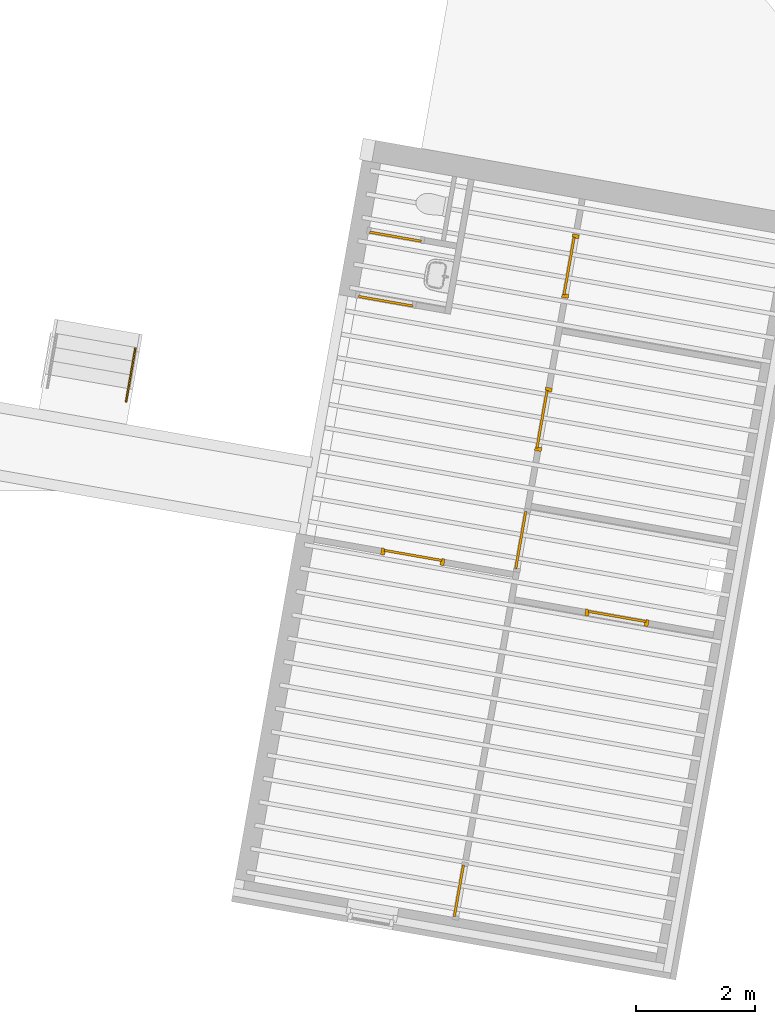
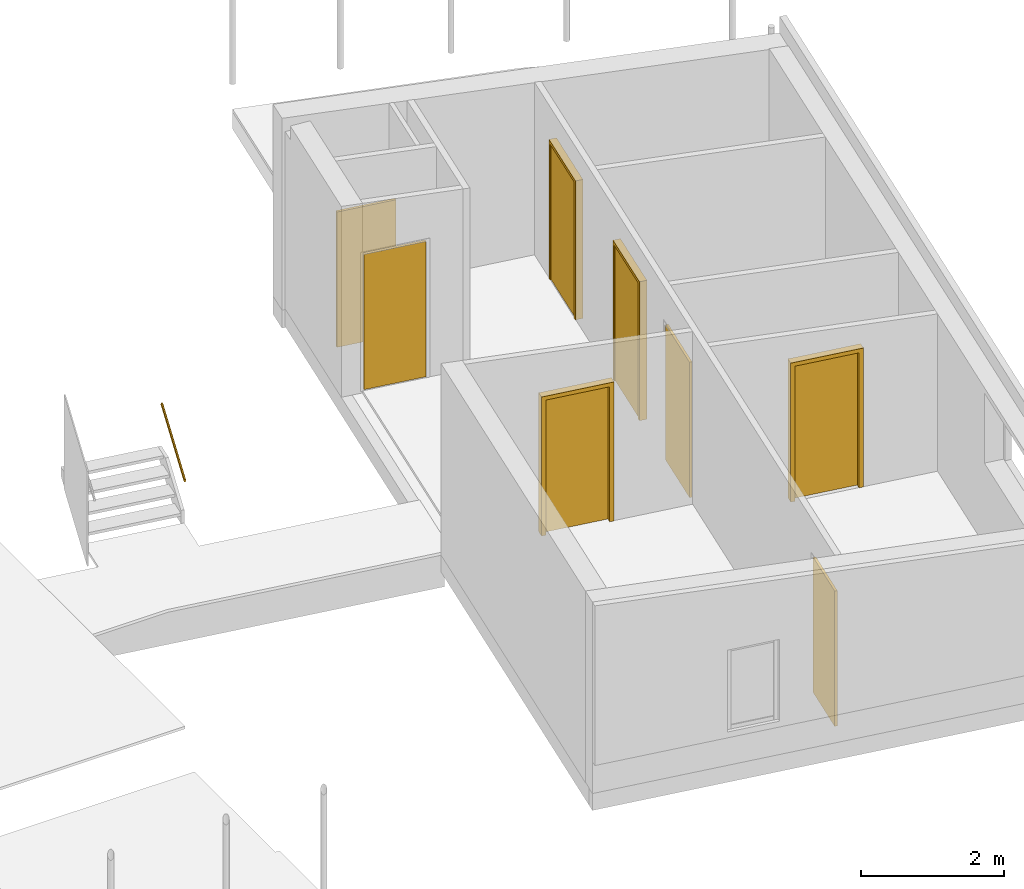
# One storey, part 6 of 7: 12 doors, 1 railing, 1 element without a shape of its own.
"""IFC2X3 building model written with IfcOpenShell, lengths in millimetres."""

from ifc_helpers import new_model, entity, si_unit, converted_unit, derived_unit, direction, frame, origin, origin_2d_with_axis, place, context, subcontext, project, spatial, rectangle, extrude, faceted_brep, source, transform, mapped, type_object, type_shapes, element, aggregate, save


model = new_model("IFC2X3")

# Units and contexts
model_context = context("Model", 3, precision=0.01, world=origin(), true_north=direction((6.12303176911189e-17, 1.0)))
body_context = subcontext(model_context, "Body", "Model", "MODEL_VIEW")
ifc_project = project(units=[si_unit("LENGTHUNIT", "METRE", prefix="MILLI"), si_unit("AREAUNIT", "SQUARE_METRE"), si_unit("VOLUMEUNIT", "CUBIC_METRE"), converted_unit("PLANEANGLEUNIT", "DEGREE", entity("IfcRatioMeasure", 0.0174532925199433), si_unit("PLANEANGLEUNIT", "RADIAN"), dimensions=[0, 0, 0, 0, 0, 0, 0]), si_unit("MASSUNIT", "GRAM", prefix="KILO"), derived_unit("MASSDENSITYUNIT", [(si_unit("MASSUNIT", "GRAM", prefix="KILO"), 1), (si_unit("LENGTHUNIT", "METRE"), -3)]), si_unit("TIMEUNIT", "SECOND"), si_unit("FREQUENCYUNIT", "HERTZ"), si_unit("THERMODYNAMICTEMPERATUREUNIT", "DEGREE_CELSIUS"), derived_unit("THERMALTRANSMITTANCEUNIT", [(si_unit("MASSUNIT", "GRAM", prefix="KILO"), 1), (si_unit("THERMODYNAMICTEMPERATUREUNIT", "KELVIN"), -1), (si_unit("TIMEUNIT", "SECOND"), -3)]), derived_unit("VOLUMETRICFLOWRATEUNIT", [(si_unit("LENGTHUNIT", "METRE"), 3), (si_unit("TIMEUNIT", "SECOND"), -1)]), si_unit("ELECTRICCURRENTUNIT", "AMPERE"), si_unit("ELECTRICVOLTAGEUNIT", "VOLT"), si_unit("POWERUNIT", "WATT"), si_unit("FORCEUNIT", "NEWTON", prefix="KILO"), si_unit("ILLUMINANCEUNIT", "LUX"), si_unit("LUMINOUSFLUXUNIT", "LUMEN"), si_unit("LUMINOUSINTENSITYUNIT", "CANDELA"), derived_unit("USERDEFINED", [(si_unit("MASSUNIT", "GRAM", prefix="KILO"), -1), (si_unit("LENGTHUNIT", "METRE"), -2), (si_unit("TIMEUNIT", "SECOND"), 3), (si_unit("LUMINOUSFLUXUNIT", "LUMEN"), 1)]), derived_unit("LINEARVELOCITYUNIT", [(si_unit("LENGTHUNIT", "METRE"), 1), (si_unit("TIMEUNIT", "SECOND"), -1)]), si_unit("PRESSUREUNIT", "PASCAL"), derived_unit("USERDEFINED", [(si_unit("LENGTHUNIT", "METRE"), -2), (si_unit("MASSUNIT", "GRAM", prefix="KILO"), 1), (si_unit("TIMEUNIT", "SECOND"), -2)])], contexts=[model_context])

# Site, building, storey
site_placement = place(None, origin())
site = spatial("IfcSite", under=ifc_project, at=site_placement, Name="<Kadaster Gemeente>;<Kadaster nummer>;<Kadaster sectie>", CompositionType="ELEMENT")
building_placement = place(site_placement, origin())
building = spatial("IfcBuilding", under=site, at=building_placement, Name="JRCZ Middelburg", CompositionType="ELEMENT")
storey_placement = place(building_placement, frame((0.0, 0.0, 3000.0)))
storey = spatial("IfcBuildingStorey", under=building, at=storey_placement, Name="01 eerste verdieping", CompositionType="ELEMENT", Elevation=3000.0)

# Doors
door_style_1 = type_object("IfcDoorStyle", Name="dichte deur_gen", ConstructionType="USERDEFINED", OperationType="NOTDEFINED", ParameterTakesPrecedence=False, Sizeable=False)
shared_shape_1 = source(origin(), body_context, "Body", "SweptSolid", [
    extrude(rectangle(XDim=929.999999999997, YDim=40.0, at=origin_2d_with_axis()), frame((0.0, 20.0, 0.0), z_axis=(0.0, 0.0, 1.0), x_axis=(-1.0, 0.0, 0.0)), (0.0, 0.0, 1.0), 2315.0),
])
type_shapes(door_style_1, [shared_shape_1])
door_1_placement = place(storey_placement, frame((24280.5330340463, 16792.7089152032, 10.0), z_axis=(0.0, 0.0, 1.0), x_axis=(0.984807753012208, -0.173648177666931, 0.0)))
element("IfcDoor", 1, at=door_1_placement, inside=storey, type_object=door_style_1, Name="NLRS_32_DO_ISR_onderdeel deur-SH_generiek_ISR:dichte deur_gen", ObjectType="NLRS_32_DO_ISR_onderdeel deur-SH_generiek_ISR:dichte deur_gen", OverallHeight=2315.0, OverallWidth=930.000000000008, context=body_context, shape_type="MappedRepresentation", body=[
    mapped(shared_shape_1, transform((0.0, 0.0, 0.0), scale=1.0)),
])
door_style_2 = type_object("IfcDoorStyle", Name="dichte deur_gen", ConstructionType="USERDEFINED", OperationType="NOTDEFINED", ParameterTakesPrecedence=False, Sizeable=False)
shared_shape_2 = source(origin(), body_context, "Body", "SweptSolid", [
    extrude(rectangle(XDim=40.0, YDim=979.999999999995, at=origin_2d_with_axis()), frame((0.0, -20.0, 0.0), z_axis=(0.0, 0.0, 1.0), x_axis=(0.0, 1.0, 0.0)), (0.0, 0.0, 1.0), 2315.0),
])
type_shapes(door_style_2, [shared_shape_2])
door_2_placement = place(storey_placement, frame((26541.863905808, 12790.2262246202, 10.0), z_axis=(0.0, 0.0, 1.0), x_axis=(0.17364817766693, 0.984807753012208, 0.0)))
element("IfcDoor", 2, at=door_2_placement, inside=storey, type_object=door_style_2, Name="NLRS_32_DO_ISR_onderdeel deur-SH_generiek_ISR:dichte deur_gen", ObjectType="NLRS_32_DO_ISR_onderdeel deur-SH_generiek_ISR:dichte deur_gen", OverallHeight=2315.0, OverallWidth=980.000000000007, context=body_context, shape_type="MappedRepresentation", body=[
    mapped(shared_shape_2, transform((0.0, 0.0, 0.0), scale=1.0)),
])
door_style_3 = type_object("IfcDoorStyle", Name="enkele deur_gen", ConstructionType="USERDEFINED", OperationType="NOTDEFINED", ParameterTakesPrecedence=False, Sizeable=False)
shared_shape_3 = source(origin(), body_context, "Body", "Brep", [
    faceted_brep([(492.0, 0.0, 0.0), (492.0, 54.0, 0.0), (475.0, 54.0, 0.0), (475.0, 114.0, 0.0), (542.0, 114.0, 0.0), (542.0, 0.0, 0.0), (492.0, 0.0, 2327.0), (492.0, 54.0, 2327.0), (492.0, 54.0, 2310.0), (475.0, 54.0, 2310.0), (475.0, 114.0, 2310.0), (542.0, 114.0, 2310.0), (542.0, 54.0, 2310.0), (542.0, 54.0, 2327.0), (542.0, 0.0, 2327.0)], [[[0, 1, 2, 3, 4, 5]], [[6, 7, 8, 1, 0]], [[2, 1, 8, 9]], [[3, 2, 9, 10]], [[4, 3, 10, 11]], [[5, 4, 11, 12, 13, 14]], [[14, 6, 0, 5]], [[6, 14, 13, 7]], [[8, 12, 11, 10, 9]], [[12, 8, 7, 13]]]),
    faceted_brep([(-542.0, 0.0, 2327.0), (-542.0, 0.0, 2377.0), (-542.0, 114.0, 2377.0), (-542.0, 114.0, 2310.0), (-542.0, 54.0, 2310.0), (-542.0, 54.0, 2327.0), (542.0, 0.0, 2327.0), (542.0, 54.0, 2327.0), (542.0, 54.0, 2310.0), (542.0, 114.0, 2310.0), (542.0, 114.0, 2377.0), (542.0, 0.0, 2377.0)], [[[0, 1, 2, 3, 4, 5]], [[6, 7, 8, 9, 10, 11]], [[5, 7, 6, 0]], [[4, 8, 7, 5]], [[3, 9, 8, 4]], [[2, 10, 9, 3]], [[1, 11, 10, 2]], [[0, 6, 11, 1]]]),
    faceted_brep([(-492.0, 0.0, 0.0), (-542.0, 0.0, 0.0), (-542.0, 114.0, 0.0), (-475.0, 114.0, 0.0), (-475.0, 54.0, 0.0), (-492.0, 54.0, 0.0), (-492.0, 0.0, 2327.0), (-492.0, 54.0, 2310.0), (-492.0, 54.0, 2327.0), (-475.0, 54.0, 2310.0), (-475.0, 114.0, 2310.0), (-542.0, 114.0, 2310.0), (-542.0, 0.0, 2327.0), (-542.0, 54.0, 2327.0), (-542.0, 54.0, 2310.0)], [[[0, 1, 2, 3, 4, 5]], [[6, 0, 5, 7, 8]], [[4, 9, 7, 5]], [[3, 10, 9, 4]], [[2, 11, 10, 3]], [[1, 12, 13, 14, 11, 2]], [[12, 1, 0, 6]], [[6, 8, 13, 12]], [[7, 9, 10, 11, 14]], [[14, 13, 8, 7]]]),
])
type_shapes(door_style_3, [shared_shape_3])
for number, where, z_axis, x_axis in (
    (3, (26887.5283250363, 14831.2093478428, 0.0), (0.0, 0.0, 1.0), (-0.17364817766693, -0.984807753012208, 0.0)),
    (4, (27342.833846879, 17413.3752762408, 0.0), (0.0, 0.0, 1.0), (-0.17364817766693, -0.984807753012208, 0.0)),
    (5, (24752.1383723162, 12562.5498868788, 0.0), (0.0, 0.0, 1.0), (-0.984807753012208, 0.173648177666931, 0.0)),
    (6, (28191.7251776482, 11533.6404600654, 0.0), (0.0, 0.0, 1.0), (-0.984807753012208, 0.173648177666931, 0.0)),
):
    element("IfcDoor", number, at=place(storey_placement, frame(where, z_axis=z_axis, x_axis=x_axis)), inside=storey, type_object=door_style_3, Name="NLRS_32_DO_UN_samenstelling binnenkozijn hout-SH_generiek_ISR:enkele deur_gen", ObjectType="NLRS_32_DO_UN_samenstelling binnenkozijn hout-SH_generiek_ISR:enkele deur_gen", OverallHeight=2377.00000000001, OverallWidth=1084.0, context=body_context, shape_type="MappedRepresentation", body=[
        mapped(shared_shape_3, transform((0.0, 0.0, 0.0), scale=1.0)),
    ])
door_style_4 = type_object("IfcDoorStyle", Name="dichte deur_gen", ConstructionType="USERDEFINED", OperationType="NOTDEFINED", ParameterTakesPrecedence=False, Sizeable=False)
shared_shape_4 = source(origin(), body_context, "Body", "SweptSolid", [
    extrude(rectangle(XDim=979.999999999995, YDim=40.0, at=origin_2d_with_axis()), frame((0.0, 20.0, 0.0), z_axis=(0.0, 0.0, 1.0), x_axis=(-1.0, 0.0, 0.0)), (0.0, 0.0, 1.0), 2315.0),
])
type_shapes(door_style_4, [shared_shape_4])
for number, where, z_axis, x_axis in (
    (7, (26901.3156335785, 14828.7782733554, 10.0), (0.0, 0.0, 1.0), (-0.17364817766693, -0.984807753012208, 0.0)),
    (8, (27356.6211554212, 17410.9442017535, 10.0), (0.0, 0.0, 1.0), (-0.17364817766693, -0.984807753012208, 0.0)),
    (9, (24749.7072978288, 12548.7625783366, 10.0), (0.0, 0.0, 1.0), (-0.984807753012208, 0.173648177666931, 0.0)),
    (10, (28189.2941031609, 11519.8531515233, 10.0), (0.0, 0.0, 1.0), (-0.984807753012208, 0.173648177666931, 0.0)),
):
    element("IfcDoor", number, at=place(storey_placement, frame(where, z_axis=z_axis, x_axis=x_axis)), inside=storey, type_object=door_style_4, Name="NLRS_32_DO_ISR_onderdeel deur-SH_generiek_ISR:dichte deur_gen", ObjectType="NLRS_32_DO_ISR_onderdeel deur-SH_generiek_ISR:dichte deur_gen", OverallHeight=2315.0, OverallWidth=980.000000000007, context=body_context, shape_type="MappedRepresentation", body=[
        mapped(shared_shape_4, transform((0.0, 0.0, 0.0), scale=1.0)),
    ])
door_style_5 = type_object("IfcDoorStyle", Name="dichte deur_gen", ConstructionType="USERDEFINED", OperationType="NOTDEFINED", ParameterTakesPrecedence=False, Sizeable=False)
shared_shape_5 = source(origin(), body_context, "Body", "SweptSolid", [
    extrude(rectangle(XDim=879.999999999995, YDim=40.0, at=origin_2d_with_axis()), frame((0.0, 20.0, 0.0), z_axis=(0.0, 0.0, 1.0), x_axis=(-1.0, 0.0, 0.0)), (0.0, 0.0, 1.0), 2315.0),
])
type_shapes(door_style_5, [shared_shape_5])
door_3_placement = place(storey_placement, frame((24446.9258356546, 17880.3386479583, 10.0), z_axis=(0.0, 0.0, 1.0), x_axis=(0.984807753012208, -0.173648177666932, 0.0)))
element("IfcDoor", 11, at=door_3_placement, inside=storey, type_object=door_style_5, Name="NLRS_32_DO_ISR_onderdeel deur-SH_generiek_ISR:dichte deur_gen", ObjectType="NLRS_32_DO_ISR_onderdeel deur-SH_generiek_ISR:dichte deur_gen", OverallHeight=2315.0, OverallWidth=880.000000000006, context=body_context, shape_type="MappedRepresentation", body=[
    mapped(shared_shape_5, transform((0.0, 0.0, 0.0), scale=1.0)),
])
door_style_6 = type_object("IfcDoorStyle", Name="dichte deur_gen", ConstructionType="USERDEFINED", OperationType="NOTDEFINED", ParameterTakesPrecedence=False, Sizeable=False)
shared_shape_6 = source(origin(), body_context, "Body", "SweptSolid", [
    extrude(rectangle(XDim=40.0, YDim=879.999999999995, at=origin_2d_with_axis()), frame((0.0, -20.0, 0.0), z_axis=(0.0, 0.0, 1.0), x_axis=(0.0, 1.0, 0.0)), (0.0, 0.0, 1.0), 2315.0),
])
type_shapes(door_style_6, [shared_shape_6])
door_4_placement = place(storey_placement, frame((25499.9748398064, 6881.37970654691, 10.0), z_axis=(0.0, 0.0, 1.0), x_axis=(0.17364817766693, 0.984807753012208, 0.0)))
element("IfcDoor", 12, at=door_4_placement, inside=storey, type_object=door_style_6, Name="NLRS_32_DO_ISR_onderdeel deur-SH_generiek_ISR:dichte deur_gen", ObjectType="NLRS_32_DO_ISR_onderdeel deur-SH_generiek_ISR:dichte deur_gen", OverallHeight=2315.0, OverallWidth=880.000000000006, context=body_context, shape_type="MappedRepresentation", body=[
    mapped(shared_shape_6, transform((0.0, 0.0, 0.0), scale=1.0)),
])

# Stair, railing
stair_placement = place(storey_placement, origin())
stair = element("IfcStair", 13, at=stair_placement, inside=storey, Name="Assembled Stair:Stair", ObjectType="Assembled Stair:RBM_ST_houten trap", ShapeType="NOTDEFINED")
railing_placement = place(stair_placement, frame((19888.876604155, 15104.4620729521, 866.663048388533)))
railing = element("IfcRailing", 14, at=railing_placement, Name="Railing:RBM_RA_handleuning", ObjectType="Railing:RBM_RA_handleuning", PredefinedType="NOTDEFINED", context=body_context, shape_type="Brep", body=[
    faceted_brep([(29.7498490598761, 3.2231689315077, 4.77741160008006), (32.0960637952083, 2.81619475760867, 9.91982965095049), (34.4422785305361, 2.4092205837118, 15.0622477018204), (36.788493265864, 2.00224640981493, 20.2046657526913), (39.1347080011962, 1.5952722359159, 25.3470838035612), (37.5239575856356, 1.87467284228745, 28.8775159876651), (35.9132071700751, 2.15407344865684, 32.4079481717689), (34.3024567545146, 2.43347405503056, 35.9383803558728), (32.6917063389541, 2.71287466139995, 39.4688125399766), (29.7498490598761, 3.2231689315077, 45.9167560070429), (25.0574195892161, 4.0371172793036, 45.9167560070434), (20.364990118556, 4.85106562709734, 45.9167560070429), (15.672560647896, 5.66501397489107, 45.9167560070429), (10.980131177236, 6.47896232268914, 45.9167560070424), (8.63391644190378, 6.885936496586, 40.774337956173), (6.2877017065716, 7.29291067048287, 35.6319199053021), (4.81677306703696, 7.54805780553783, 32.4079481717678), (3.2060226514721, 7.82745841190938, 28.877515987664), (1.5952722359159, 8.10685901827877, 25.3470838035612), (3.20602265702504, 7.82745841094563, 21.8166516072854), (4.81677307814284, 7.54805780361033, 18.2862194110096), (6.2877017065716, 7.29291067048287, 15.0622477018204), (8.63391644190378, 6.885936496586, 9.91982965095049), (10.980131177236, 6.47896232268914, 4.77741160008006), (15.672560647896, 5.66501397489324, 4.77741160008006), (20.364990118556, 4.85106562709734, 4.77741160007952), (25.0574195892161, 4.0371172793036, 4.77741160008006), (168.379570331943, 931.360227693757, 709.863411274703), (166.768819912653, 931.639628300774, 713.393843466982), (165.158069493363, 931.919028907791, 716.924275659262), (163.547319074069, 932.198429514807, 720.454707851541), (161.936568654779, 932.477830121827, 723.98514004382), (164.282783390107, 932.070855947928, 729.127558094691), (166.628998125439, 931.663881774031, 734.269976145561), (168.975212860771, 931.256907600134, 739.412394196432), (171.321427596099, 930.849933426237, 744.554812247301), (176.013857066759, 930.035985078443, 744.554812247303), (180.706286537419, 929.222036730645, 744.554812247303), (185.398716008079, 928.408088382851, 744.554812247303), (190.091145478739, 927.594140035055, 744.554812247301), (192.437360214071, 927.187165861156, 739.412394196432), (194.783574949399, 926.78019168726, 734.269976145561), (197.129789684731, 926.373217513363, 729.127558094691), (199.476004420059, 925.966243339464, 723.98514004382), (197.865254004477, 926.245643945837, 720.454707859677), (196.254503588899, 926.525044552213, 716.924275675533), (194.783574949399, 926.78019168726, 713.700303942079), (192.437360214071, 927.187165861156, 708.55788589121), (190.091145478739, 927.594140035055, 703.415467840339), (185.398716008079, 928.408088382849, 703.41546784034), (180.706286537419, 929.222036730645, 703.41546784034), (176.013857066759, 930.035985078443, 703.415467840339), (171.321427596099, 930.849933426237, 703.415467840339)], [[[0, 1, 2, 3, 4, 5, 6, 7, 8, 9, 10, 11, 12, 13, 14, 15, 16, 17, 18, 19, 20, 21, 22, 23, 24, 25, 26]], [[27, 28, 29, 30, 31, 32, 33, 34, 35, 36, 37, 38, 39, 40, 41, 42, 43, 44, 45, 46, 47, 48, 49, 50, 51, 52]], [[9, 8, 7, 6, 5, 4, 43, 42, 41, 40, 39]], [[15, 14, 13, 35, 34, 33, 32, 31, 18, 17, 16]], [[11, 10, 9, 39, 38, 37, 36, 35, 13, 12]], [[21, 20, 19, 18, 31, 30, 29, 28, 27, 52, 23, 22]], [[50, 49, 48, 0, 26, 25, 24, 23, 52, 51]], [[45, 44, 43, 4, 3, 2, 1, 0, 48, 47, 46]]]),
])
aggregate(stair, [railing])

save(model, "model.ifc")
